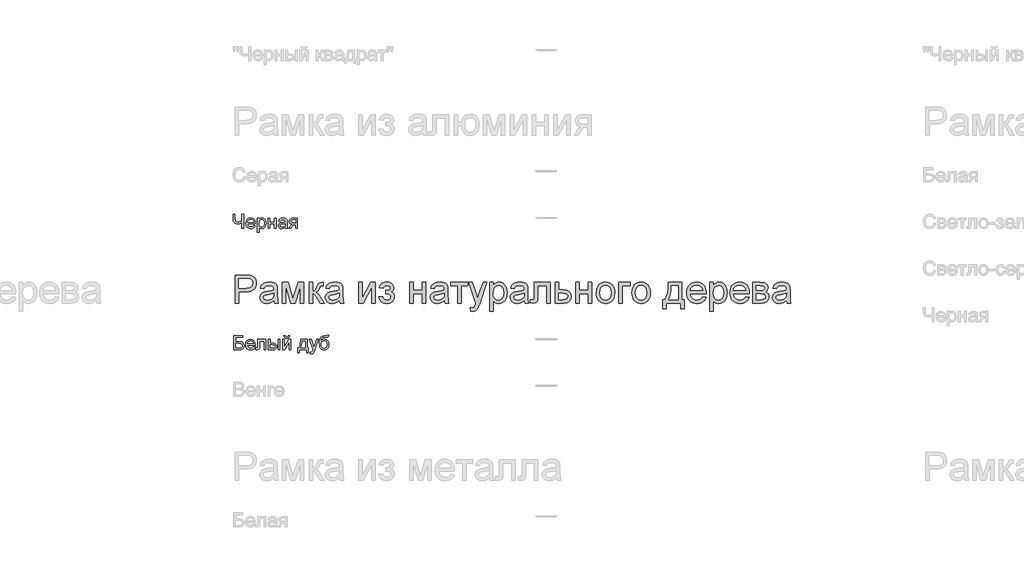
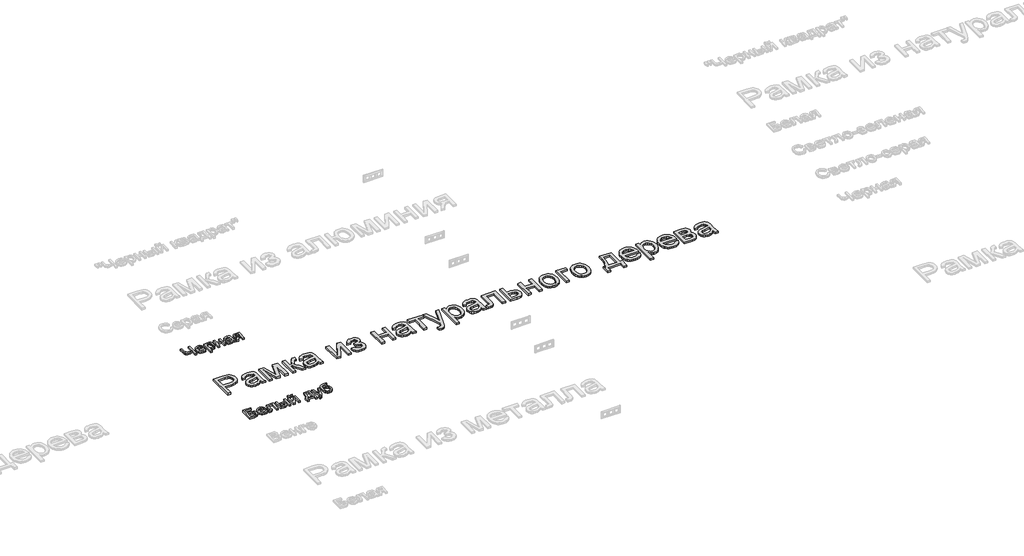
# One storey, part 123 of 168: 3 proxies.
"""IFC4 building model written with IfcOpenShell, lengths in millimetres."""

from ifc_helpers import new_model, si_unit, origin, origin_with_axes, place, context, project, spatial, polyline, outline, extrude, element, save

model = new_model("IFC4")

# Units and contexts
model_context = context("Model", 3, world=origin())
ifc_project = project(units=[si_unit("LENGTHUNIT", "METRE", prefix="MILLI")], contexts=[model_context])

# Site, building, storey
site = spatial("IfcSite", under=ifc_project)
building = spatial("IfcBuilding", under=site)
storey = spatial("IfcBuildingStorey", under=building, Name="Этаж 01", Elevation=0.0)

# Proxies
placement = place(None, origin())
element("IfcBuildingElementProxy", 1, Name="300 мм Arial 2", ObjectType="300 мм Arial 2", at=placement, inside=storey, context=model_context, shape_type="SweptSolid", body=[
    extrude(outline(polyline([(47699.0945017, -10648.4056816), (47699.0945017, -10347.0367511), (47810.7834754, -10347.0367511), (47855.8122316, -10349.9062307), (47875.8893915, -10355.2681108), (47892.4164901, -10363.9961111), (47905.7246213, -10376.4857048), (47916.1448788, -10393.1323651), (47922.8771193, -10412.7680666), (47925.1211995, -10434.224784), (47923.6059855, -10452.7246498), (47919.0603436, -10469.7437906), (47911.4842738, -10485.2822064), (47900.877776, -10499.3398971), (47886.3165468, -10510.9925593), (47866.8762826, -10519.3158895), (47842.5569835, -10524.3098875), (47813.3586494, -10525.9745536), (47736.765618, -10525.9745536), (47736.765618, -10648.4056816), (47699.0945017, -10648.4056816)]), holes=[polyline([(47736.765618, -10488.3034373), (47815.5659413, -10488.3034373), (47848.9696265, -10484.8453465), (47871.0425462, -10474.4710742), (47883.3481989, -10457.824414), (47887.4500832, -10435.5491592), (47885.0312591, -10418.6265874), (47877.7747867, -10404.352766), (47866.581977, -10393.6106117), (47852.3541408, -10387.2830414), (47814.6830245, -10384.7078674), (47736.765618, -10384.7078674), (47736.765618, -10488.3034373)])]), origin_with_axes(), (0.0, 0.0, 1.0), 20.0),
    extrude(outline(polyline([(48113.476781, -10620.1523443), (48095.4781544, -10635.584994), (48076.9460989, -10645.6833548), (48057.4575502, -10651.256767), (48036.589444, -10653.1145711), (48005.1079423, -10648.6448049), (47981.8853914, -10635.2355061), (47967.5655847, -10614.8732377), (47962.7923158, -10589.5445623), (47964.5949376, -10573.9279716), (47970.0028029, -10559.7461207), (47978.3445271, -10547.6060149), (47988.9487257, -10538.1146594), (48015.3258647, -10525.7538244), (48047.9202095, -10520.0884417), (48086.4374544, -10514.1287533), (48113.2560518, -10507.1389954), (48113.476781, -10498.7512859), (48110.883213, -10481.9390788), (48103.1025088, -10470.9394071), (48085.7016904, -10462.7724268), (48061.4582669, -10460.0501), (48039.0174652, -10461.8619189), (48023.3456922, -10467.2973753), (48012.6587202, -10477.3497509), (48005.1723216, -10493.0123268), (47967.5012053, -10488.3034373), (47974.0403078, -10467.7020455), (47983.7983777, -10451.5152378), (47997.685923, -10439.1360086), (48016.6134517, -10429.9573528), (48039.7624262, -10424.273576), (48066.3143092, -10422.3789837), (48091.7809404, -10424.0528468), (48111.9684648, -10429.074436), (48127.1895824, -10436.625214), (48137.7569927, -10445.8866432), (48144.7651447, -10457.3369703), (48149.3084874, -10471.4544419), (48151.1478973, -10504.4166687), (48151.1478973, -10551.2848348), (48153.0608837, -10616.7310418), (48160.5656764, -10648.4056816), (48122.8945601, -10648.4056816), (48113.476781, -10620.1523443)]), holes=[polyline([(48113.476781, -10544.8101117), (48052.7026754, -10556.3616064), (48020.2922716, -10562.4684475), (48005.61378, -10572.4012614), (48000.4634321, -10586.895812), (48003.2685323, -10598.0978187), (48011.683833, -10607.2764745), (48025.525393, -10613.4017097), (48044.6092715, -10615.4434548), (48064.8427813, -10613.1901776), (48082.7218462, -10606.4303459), (48097.2163968, -10596.4699409), (48107.2963635, -10584.6149436), (48111.7661297, -10572.4012614), (48113.2560518, -10555.4786896), (48113.476781, -10544.8101117)])]), origin_with_axes(), (0.0, 0.0, 1.0), 20.0),
    extrude(outline(polyline([(48202.9456823, -10427.0878733), (48267.7664898, -10427.0878733), (48317.7248647, -10604.2598421), (48371.5827888, -10427.0878733), (48433.6812696, -10427.0878733), (48433.6812696, -10648.4056816), (48396.0101533, -10648.4056816), (48396.0101533, -10470.2036431), (48341.8579236, -10648.4056816), (48292.4145835, -10648.4056816), (48240.6167986, -10461.6687808), (48240.6167986, -10648.4056816), (48202.9456823, -10648.4056816), (48202.9456823, -10427.0878733)])), origin_with_axes(), (0.0, 0.0, 1.0), 20.0),
    extrude(outline(polyline([(48490.1879441, -10427.0878733), (48527.8590604, -10427.0878733), (48527.8590604, -10521.265664), (48543.1813455, -10519.5734069), (48553.0957653, -10514.4966353), (48561.8697508, -10501.2528835), (48573.7707334, -10475.0596854), (48590.9508226, -10441.0306009), (48606.1075608, -10429.9573528), (48633.6619222, -10427.0878733), (48640.8724093, -10427.0878733), (48640.8724093, -10464.9797188), (48630.7188662, -10464.7589896), (48612.3247665, -10468.7321151), (48599.3753203, -10493.5273616), (48584.1817939, -10520.345959), (48562.8814263, -10533.4793463), (48574.8191971, -10538.7814455), (48586.6466032, -10548.1394438), (48609.9703217, -10579.0231373), (48650.2901884, -10648.4056816), (48607.4687241, -10648.4056816), (48567.9581979, -10580.4946653), (48548.0925701, -10551.7630814), (48538.8035497, -10546.5483542), (48527.8590604, -10544.8101117), (48527.8590604, -10648.4056816), (48490.1879441, -10648.4056816), (48490.1879441, -10427.0878733)])), origin_with_axes(), (0.0, 0.0, 1.0), 20.0),
    extrude(outline(polyline([(48815.1013222, -10620.1523443), (48797.1026956, -10635.584994), (48778.5706401, -10645.6833548), (48759.0820914, -10651.256767), (48738.2139852, -10653.1145711), (48706.7324835, -10648.6448049), (48683.5099326, -10635.2355061), (48669.1901259, -10614.8732377), (48664.416857, -10589.5445623), (48666.2194788, -10573.9279716), (48671.6273441, -10559.7461207), (48679.9690683, -10547.6060149), (48690.5732669, -10538.1146594), (48716.9504059, -10525.7538244), (48749.5447507, -10520.0884417), (48788.0619956, -10514.1287533), (48814.880593, -10507.1389954), (48815.1013222, -10498.7512859), (48812.5077542, -10481.9390788), (48804.72705, -10470.9394071), (48787.3262316, -10462.7724268), (48763.0828081, -10460.0501), (48740.6420064, -10461.8619189), (48724.9702334, -10467.2973753), (48714.2832614, -10477.3497509), (48706.7968628, -10493.0123268), (48669.1257465, -10488.3034373), (48675.664849, -10467.7020455), (48685.4229189, -10451.5152378), (48699.3104642, -10439.1360086), (48718.2379929, -10429.9573528), (48741.3869674, -10424.273576), (48767.9388504, -10422.3789837), (48793.4054816, -10424.0528468), (48813.593006, -10429.074436), (48828.8141236, -10436.625214), (48839.3815339, -10445.8866432), (48846.3896859, -10457.3369703), (48850.9330286, -10471.4544419), (48852.7724385, -10504.4166687), (48852.7724385, -10551.2848348), (48854.6854249, -10616.7310418), (48862.1902176, -10648.4056816), (48824.5191013, -10648.4056816), (48815.1013222, -10620.1523443)]), holes=[polyline([(48815.1013222, -10544.8101117), (48754.3272166, -10556.3616064), (48721.9168128, -10562.4684475), (48707.2383212, -10572.4012614), (48702.0879733, -10586.895812), (48704.8930735, -10598.0978187), (48713.3083742, -10607.2764745), (48727.1499342, -10613.4017097), (48746.2338127, -10615.4434548), (48766.4673225, -10613.1901776), (48784.3463874, -10606.4303459), (48798.840938, -10596.4699409), (48808.9209047, -10584.6149436), (48813.3906709, -10572.4012614), (48814.880593, -10555.4786896), (48815.1013222, -10544.8101117)])]), origin_with_axes(), (0.0, 0.0, 1.0), 20.0),
    extrude(outline(polyline([(49022.2924619, -10427.0878733), (49059.9635782, -10427.0878733), (49059.9635782, -10595.8721327), (49152.5226882, -10427.0878733), (49201.2302644, -10427.0878733), (49201.2302644, -10648.4056816), (49163.5591481, -10648.4056816), (49163.5591481, -10480.6514918), (49071.5886493, -10648.4056816), (49022.2924619, -10648.4056816), (49022.2924619, -10427.0878733)])), origin_with_axes(), (0.0, 0.0, 1.0), 20.0),
    extrude(outline(polyline([(49309.5347237, -10549.5190013), (49309.5347237, -10511.847885), (49339.259589, -10510.376357), (49354.2691744, -10502.5404705), (49359.5666751, -10495.1920276), (49361.3325087, -10486.1697217), (49358.9688668, -10475.4551586), (49351.8779414, -10467.1502225), (49341.0530137, -10461.8251307), (49327.4873651, -10460.0501), (49313.7745637, -10461.8159336), (49302.2874484, -10467.1134343), (49293.0260192, -10475.9426022), (49285.9902761, -10488.3034373), (49243.6102702, -10483.5945477), (49254.8490652, -10456.8127385), (49271.9371838, -10437.6828747), (49294.8746262, -10426.2049565), (49323.6613924, -10422.3789837), (49355.1520911, -10427.041888), (49378.9908444, -10441.0306009), (49394.0004298, -10461.4940369), (49399.003625, -10485.5811105), (49397.2239958, -10497.9419455), (49391.8851084, -10508.9784054), (49382.9869626, -10518.6904901), (49370.5295585, -10527.0781996), (49385.0700944, -10537.5444423), (49395.4351696, -10550.5490709), (49401.6431783, -10566.1288733), (49403.7125145, -10584.320638), (49398.460999, -10612.0497434), (49382.7064526, -10634.0214956), (49357.515733, -10648.3413022), (49323.955698, -10653.1145711), (49291.1314269, -10648.6999872), (49266.0142837, -10635.4562353), (49248.6042683, -10613.3833156), (49238.9013807, -10582.481228), (49281.2813865, -10577.7723385), (49287.6273509, -10593.7016289), (49298.2775347, -10605.5842173), (49311.9995331, -10612.9786454), (49327.5609415, -10615.4434548), (49342.7176797, -10613.079813), (49355.0785147, -10605.9888875), (49363.3006773, -10595.2191421), (49366.0413982, -10581.8190404), (49364.339944, -10571.2056449), (49359.2355813, -10562.0269891), (49344.7410307, -10551.4319876), (49316.8923636, -10549.2982721), (49309.5347237, -10549.5190013)])), origin_with_axes(), (0.0, 0.0, 1.0), 20.0),
    extrude(outline(polyline([(49568.5236483, -10427.0878733), (49606.1947647, -10427.0878733), (49606.1947647, -10511.847885), (49705.081445, -10511.847885), (49705.081445, -10427.0878733), (49742.7525613, -10427.0878733), (49742.7525613, -10648.4056816), (49705.081445, -10648.4056816), (49705.081445, -10549.5190013), (49606.1947647, -10549.5190013), (49606.1947647, -10648.4056816), (49568.5236483, -10648.4056816), (49568.5236483, -10427.0878733)])), origin_with_axes(), (0.0, 0.0, 1.0), 20.0),
    extrude(outline(polyline([(49940.5259219, -10620.1523443), (49922.5272953, -10635.584994), (49903.9952397, -10645.6833548), (49884.5066911, -10651.256767), (49863.6385849, -10653.1145711), (49832.1570831, -10648.6448049), (49808.9345322, -10635.2355061), (49794.6147255, -10614.8732377), (49789.8414566, -10589.5445623), (49791.6440784, -10573.9279716), (49797.0519438, -10559.7461207), (49805.393668, -10547.6060149), (49815.9978665, -10538.1146594), (49842.3750056, -10525.7538244), (49874.9693503, -10520.0884417), (49913.4865952, -10514.1287533), (49940.3051927, -10507.1389954), (49940.5259219, -10498.7512859), (49937.9323538, -10481.9390788), (49930.1516496, -10470.9394071), (49912.7508312, -10462.7724268), (49888.5074078, -10460.0501), (49866.066606, -10461.8619189), (49850.3948331, -10467.2973753), (49839.7078611, -10477.3497509), (49832.2214625, -10493.0123268), (49794.5503462, -10488.3034373), (49801.0894486, -10467.7020455), (49810.8475186, -10451.5152378), (49824.7350639, -10439.1360086), (49843.6625925, -10429.9573528), (49866.8115671, -10424.273576), (49893.3634501, -10422.3789837), (49918.8300812, -10424.0528468), (49939.0176057, -10429.074436), (49954.2387232, -10436.625214), (49964.8061336, -10445.8866432), (49971.8142856, -10457.3369703), (49976.3576282, -10471.4544419), (49978.1970382, -10504.4166687), (49978.1970382, -10551.2848348), (49980.1100246, -10616.7310418), (49987.6148173, -10648.4056816), (49949.9437009, -10648.4056816), (49940.5259219, -10620.1523443)]), holes=[polyline([(49940.5259219, -10544.8101117), (49879.7518163, -10556.3616064), (49847.3414125, -10562.4684475), (49832.6629209, -10572.4012614), (49827.512573, -10586.895812), (49830.3176732, -10598.0978187), (49838.7329738, -10607.2764745), (49852.5745339, -10613.4017097), (49871.6584124, -10615.4434548), (49891.8919221, -10613.1901776), (49909.7709871, -10606.4303459), (49924.2655377, -10596.4699409), (49934.3455044, -10584.6149436), (49938.8152706, -10572.4012614), (49940.3051927, -10555.4786896), (49940.5259219, -10544.8101117)])]), origin_with_axes(), (0.0, 0.0, 1.0), 20.0),
    extrude(outline(polyline([(50011.1592649, -10427.0878733), (50190.0970674, -10427.0878733), (50190.0970674, -10464.7589896), (50119.4637243, -10464.7589896), (50119.4637243, -10648.4056816), (50081.792608, -10648.4056816), (50081.792608, -10464.7589896), (50011.1592649, -10464.7589896), (50011.1592649, -10427.0878733)])), origin_with_axes(), (0.0, 0.0, 1.0), 20.0),
    extrude(outline(polyline([(50223.0592942, -10733.1656933), (50218.3504046, -10696.8925285), (50237.4802684, -10700.2034665), (50255.3593333, -10696.0463999), (50266.3222168, -10684.4581171), (50276.6229127, -10656.7198147), (50279.5659686, -10647.5963412), (50199.5148465, -10427.0878733), (50239.246102, -10427.0878733), (50281.6996842, -10549.9604597), (50296.4885404, -10599.1094942), (50311.2773966, -10555.6994188), (50354.9082012, -10427.0878733), (50394.3451511, -10427.0878733), (50317.3106613, -10653.7031823), (50297.2978808, -10702.8522169), (50287.0523672, -10718.5423839), (50275.4456903, -10729.4132969), (50261.9628152, -10735.7592613), (50246.0887071, -10737.8745828), (50223.0592942, -10733.1656933)])), origin_with_axes(), (0.0, 0.0, 1.0), 20.0),
    extrude(outline(polyline([(50425.5415443, -10733.1656933), (50425.5415443, -10427.0878733), (50463.2126606, -10427.0878733), (50463.2126606, -10464.0232256), (50475.4999193, -10445.8038698), (50489.2587059, -10432.7900442), (50505.2983609, -10424.9817488), (50524.4282246, -10422.3789837), (50549.9040528, -10426.0210155), (50572.1793076, -10436.9471107), (50590.31589, -10454.4950819), (50603.3757008, -10478.0027414), (50611.2667696, -10505.7594379), (50613.8971258, -10536.0545202), (50610.9264787, -10568.271786), (50602.0145374, -10597.0861432), (50587.4464104, -10621.0352611), (50567.5072063, -10638.6568087), (50544.2846553, -10649.5001305), (50519.8664879, -10653.1145711), (50502.548443, -10650.695747), (50487.0882021, -10643.4392746), (50473.8536473, -10632.4855882), (50463.2126606, -10618.975122), (50463.2126606, -10733.1656933), (50425.5415443, -10733.1656933)]), holes=[polyline([(50463.2126606, -10539.512611), (50467.2869537, -10573.2841782), (50479.509833, -10596.9022022), (50497.5452478, -10610.8081417), (50519.0571475, -10615.4434548), (50540.918535, -10610.6425948), (50559.4138024, -10596.2400147), (50572.0229577, -10571.7574679), (50576.2260095, -10536.7167078), (50572.1241253, -10503.1290817), (50559.8184726, -10479.1799638), (50541.8106489, -10464.832566), (50520.6022519, -10460.0501), (50499.3110814, -10465.1360686), (50480.613479, -10480.3939744), (50467.5628652, -10505.3455707), (50463.2126606, -10539.512611)])]), origin_with_axes(), (0.0, 0.0, 1.0), 20.0),
    extrude(outline(polyline([(50797.5438178, -10620.1523443), (50779.5451912, -10635.584994), (50761.0131357, -10645.6833548), (50741.524587, -10651.256767), (50720.6564808, -10653.1145711), (50689.1749791, -10648.6448049), (50665.9524282, -10635.2355061), (50651.6326215, -10614.8732377), (50646.8593526, -10589.5445623), (50648.6619744, -10573.9279716), (50654.0698397, -10559.7461207), (50662.411564, -10547.6060149), (50673.0157625, -10538.1146594), (50699.3929015, -10525.7538244), (50731.9872463, -10520.0884417), (50770.5044912, -10514.1287533), (50797.3230886, -10507.1389954), (50797.5438178, -10498.7512859), (50794.9502498, -10481.9390788), (50787.1695456, -10470.9394071), (50769.7687272, -10462.7724268), (50745.5253037, -10460.0501), (50723.084502, -10461.8619189), (50707.412729, -10467.2973753), (50696.7257571, -10477.3497509), (50689.2393585, -10493.0123268), (50651.5682421, -10488.3034373), (50658.1073446, -10467.7020455), (50667.8654145, -10451.5152378), (50681.7529599, -10439.1360086), (50700.6804885, -10429.9573528), (50723.8294631, -10424.273576), (50750.3813461, -10422.3789837), (50775.8479772, -10424.0528468), (50796.0355017, -10429.074436), (50811.2566192, -10436.625214), (50821.8240295, -10445.8866432), (50828.8321815, -10457.3369703), (50833.3755242, -10471.4544419), (50835.2149341, -10504.4166687), (50835.2149341, -10551.2848348), (50837.1279205, -10616.7310418), (50844.6327132, -10648.4056816), (50806.9615969, -10648.4056816), (50797.5438178, -10620.1523443)]), holes=[polyline([(50797.5438178, -10544.8101117), (50736.7697122, -10556.3616064), (50704.3593085, -10562.4684475), (50689.6808168, -10572.4012614), (50684.5304689, -10586.895812), (50687.3355691, -10598.0978187), (50695.7508698, -10607.2764745), (50709.5924298, -10613.4017097), (50728.6763083, -10615.4434548), (50748.9098181, -10613.1901776), (50766.788883, -10606.4303459), (50781.2834336, -10596.4699409), (50791.3634003, -10584.6149436), (50795.8331666, -10572.4012614), (50797.3230886, -10555.4786896), (50797.5438178, -10544.8101117)])]), origin_with_axes(), (0.0, 0.0, 1.0), 20.0),
    extrude(outline(polyline([(50905.8482772, -10427.0878733), (51075.3683006, -10427.0878733), (51075.3683006, -10648.1849524), (51037.6971843, -10648.1849524), (51037.6971843, -10464.7589896), (50943.5193935, -10464.7589896), (50943.5193935, -10570.3411222), (50940.9810078, -10619.0486984), (50936.226133, -10630.0759612), (50927.0382801, -10639.6133019), (50913.0955525, -10646.2075866), (50894.0760534, -10648.4056816), (50863.4682714, -10646.4926952), (50863.4682714, -10610.7345653), (50880.3172667, -10610.7345653), (50897.3502031, -10608.4169087), (50904.15602, -10601.0592688), (50905.8482772, -10568.2074066), (50905.8482772, -10427.0878733)])), origin_with_axes(), (0.0, 0.0, 1.0), 20.0),
    extrude(outline(polyline([(51131.8749751, -10427.0878733), (51169.5460914, -10427.0878733), (51169.5460914, -10507.1389954), (51212.9561668, -10507.1389954), (51250.5904949, -10511.857082), (51265.738036, -10517.7546902), (51278.4391619, -10526.0113418), (51288.4823404, -10536.3419281), (51295.6560393, -10548.4613405), (51301.3949984, -10578.0666441), (51296.5113649, -10605.0231973), (51281.8604645, -10627.7675016), (51270.6285673, -10636.7967054), (51256.4674098, -10643.2461366), (51219.3573135, -10648.4056816), (51131.8749751, -10648.4056816), (51131.8749751, -10427.0878733)]), holes=[polyline([(51169.5460914, -10610.7345653), (51204.7156101, -10610.7345653), (51232.0032571, -10608.7571995), (51250.1490365, -10602.8251024), (51260.3301707, -10592.6991504), (51263.7238821, -10578.1402205), (51261.2130875, -10565.8345678), (51253.6807037, -10554.9636548), (51237.5398811, -10547.3484975), (51209.2037704, -10544.8101117), (51169.5460914, -10544.8101117), (51169.5460914, -10610.7345653)])]), origin_with_axes(), (0.0, 0.0, 1.0), 20.0),
    extrude(outline(polyline([(51348.4838938, -10427.0878733), (51386.1550101, -10427.0878733), (51386.1550101, -10511.847885), (51485.0416904, -10511.847885), (51485.0416904, -10427.0878733), (51522.7128067, -10427.0878733), (51522.7128067, -10648.4056816), (51485.0416904, -10648.4056816), (51485.0416904, -10549.5190013), (51386.1550101, -10549.5190013), (51386.1550101, -10648.4056816), (51348.4838938, -10648.4056816), (51348.4838938, -10427.0878733)])), origin_with_axes(), (0.0, 0.0, 1.0), 20.0),
    extrude(outline(polyline([(51569.8017021, -10537.7467774), (51571.8388487, -10509.0841715), (51577.9502883, -10484.385494), (51588.136021, -10463.6507451), (51602.3960469, -10446.8799246), (51616.7526417, -10436.160763), (51632.5991587, -10428.504219), (51649.9355977, -10423.9102925), (51668.7619588, -10422.3789837), (51689.5449923, -10424.2436856), (51708.3368644, -10429.8377912), (51725.1375753, -10439.1613005), (51739.9471249, -10452.2142135), (51752.0343477, -10468.5550719), (51760.6680783, -10487.7424172), (51765.8483166, -10509.7762495), (51767.5750627, -10534.6565687), (51764.5216422, -10572.7139611), (51755.3613805, -10601.6846682), (51740.3609921, -10623.3805088), (51719.7871915, -10639.6133019), (51695.35063, -10649.7392538), (51668.7619588, -10653.1145711), (51647.6754227, -10651.256767), (51628.7088066, -10645.6833548), (51611.8621105, -10636.3943344), (51597.1353344, -10623.3897059), (51585.1768702, -10606.8901984), (51576.6351102, -10587.1165412), (51571.5100541, -10564.0687342), (51569.8017021, -10537.7467774)]), holes=[polyline([(51607.4728184, -10537.673201), (51611.8322201, -10571.7666649), (51624.910425, -10596.0560737), (51644.5921117, -10610.5966095), (51668.7619588, -10615.4434548), (51692.8214413, -10610.5690184), (51712.4663398, -10595.9457091), (51725.5445448, -10571.3344036), (51729.9039464, -10536.4959786), (51725.5169536, -10503.3957961), (51712.3559752, -10479.4374812), (51692.6834855, -10464.8969453), (51668.7619588, -10460.0501), (51644.5921117, -10464.8785512), (51624.910425, -10479.3639048), (51611.8322201, -10503.5981312), (51607.4728184, -10537.673201)])]), origin_with_axes(), (0.0, 0.0, 1.0), 20.0),
    extrude(outline(polyline([(51809.9550686, -10427.0878733), (51932.3861966, -10427.0878733), (51932.3861966, -10464.7589896), (51847.6261849, -10464.7589896), (51847.6261849, -10648.4056816), (51809.9550686, -10648.4056816), (51809.9550686, -10427.0878733)])), origin_with_axes(), (0.0, 0.0, 1.0), 20.0),
    extrude(outline(polyline([(51951.2217547, -10537.7467774), (51953.2589013, -10509.0841715), (51959.3703409, -10484.385494), (51969.5560736, -10463.6507451), (51983.8160995, -10446.8799246), (51998.1726943, -10436.160763), (52014.0192113, -10428.504219), (52031.3556503, -10423.9102925), (52050.1820114, -10422.3789837), (52070.9650449, -10424.2436856), (52089.756917, -10429.8377912), (52106.5576279, -10439.1613005), (52121.3671775, -10452.2142135), (52133.4544003, -10468.5550719), (52142.0881309, -10487.7424172), (52147.2683692, -10509.7762495), (52148.9951153, -10534.6565687), (52145.9416948, -10572.7139611), (52136.7814331, -10601.6846682), (52121.7810447, -10623.3805088), (52101.2072441, -10639.6133019), (52076.7706826, -10649.7392538), (52050.1820114, -10653.1145711), (52029.0954753, -10651.256767), (52010.1288592, -10645.6833548), (51993.2821631, -10636.3943344), (51978.555387, -10623.3897059), (51966.5969228, -10606.8901984), (51958.0551628, -10587.1165412), (51952.9301067, -10564.0687342), (51951.2217547, -10537.7467774)]), holes=[polyline([(51988.892871, -10537.673201), (51993.2522727, -10571.7666649), (52006.3304776, -10596.0560737), (52026.0121643, -10610.5966095), (52050.1820114, -10615.4434548), (52074.2414939, -10610.5690184), (52093.8863924, -10595.9457091), (52106.9645974, -10571.3344036), (52111.323999, -10536.4959786), (52106.9370062, -10503.3957961), (52093.7760278, -10479.4374812), (52074.1035381, -10464.8969453), (52050.1820114, -10460.0501), (52026.0121643, -10464.8785512), (52006.3304776, -10479.3639048), (51993.2522727, -10503.5981312), (51988.892871, -10537.673201)])]), origin_with_axes(), (0.0, 0.0, 1.0), 20.0),
    extrude(outline(polyline([(52342.0595864, -10427.0878733), (52483.3262725, -10427.0878733), (52483.3262725, -10610.7345653), (52511.5796098, -10610.7345653), (52511.5796098, -10709.6212456), (52473.9084935, -10709.6212456), (52473.9084935, -10648.4056816), (52318.5151387, -10648.4056816), (52318.5151387, -10709.6212456), (52280.8440224, -10709.6212456), (52280.8440224, -10610.7345653), (52304.3884701, -10610.7345653), (52321.5041799, -10579.8048865), (52333.4879359, -10538.8872116), (52340.3397381, -10487.9815405), (52342.0595864, -10427.0878733)]), holes=[polyline([(52375.0218132, -10464.7589896), (52371.9316044, -10510.8821947), (52366.1926453, -10550.5858591), (52357.8049358, -10583.8699826), (52346.7684759, -10610.7345653), (52445.6551562, -10610.7345653), (52445.6551562, -10464.7589896), (52375.0218132, -10464.7589896)])]), origin_with_axes(), (0.0, 0.0, 1.0), 20.0),
    extrude(outline(polyline([(52708.911512, -10582.481228), (52745.8468643, -10587.1901176), (52732.5387331, -10615.0203905), (52711.3027449, -10635.8241173), (52682.6171464, -10648.7919577), (52646.960184, -10653.1145711), (52623.5858817, -10651.2498692), (52602.7591623, -10645.6557637), (52584.4800256, -10636.3322543), (52568.7484718, -10623.2793413), (52556.0979297, -10606.860308), (52547.0618282, -10587.4384379), (52541.6401673, -10565.013731), (52539.832947, -10539.5861874), (52541.6585614, -10513.2964203), (52547.1354046, -10490.1244531), (52556.2634766, -10470.0702859), (52569.0427774, -10453.1339185), (52584.7329445, -10439.6786346), (52602.5936154, -10430.0677174), (52622.62479, -10424.3011672), (52644.8264684, -10422.3789837), (52666.3130762, -10424.2965686), (52685.7441433, -10430.0493233), (52703.1196698, -10439.6372478), (52718.4396557, -10453.0603421), (52730.9453442, -10469.9599213), (52739.8779789, -10489.9773003), (52745.2375597, -10513.1124793), (52747.0240867, -10539.3654582), (52746.8033575, -10549.5190013), (52577.5040633, -10549.5190013), (52584.0247717, -10577.7171562), (52599.1723128, -10598.4473066), (52621.0337004, -10611.1944178), (52647.695948, -10615.4434548), (52667.7455167, -10613.4752861), (52684.6313003, -10607.5707801), (52698.3532987, -10597.3620547), (52708.911512, -10582.481228)]), holes=[polyline([(52577.5040633, -10511.847885), (52709.3529704, -10511.847885), (52704.2578047, -10491.945469), (52694.2698086, -10477.7084358), (52672.3072535, -10464.464684), (52644.6793156, -10460.0501), (52619.2862609, -10463.5725701), (52598.289396, -10474.1399805), (52583.6936779, -10490.6118968), (52577.5040633, -10511.847885)])]), origin_with_axes(), (0.0, 0.0, 1.0), 20.0),
    extrude(outline(polyline([(52784.695203, -10733.1656933), (52784.695203, -10427.0878733), (52822.3663193, -10427.0878733), (52822.3663193, -10464.0232256), (52834.6535779, -10445.8038698), (52848.4123645, -10432.7900442), (52864.4520195, -10424.9817488), (52883.5818833, -10422.3789837), (52909.0577115, -10426.0210155), (52931.3329663, -10436.9471107), (52949.4695486, -10454.4950819), (52962.5293595, -10478.0027414), (52970.4204282, -10505.7594379), (52973.0507845, -10536.0545202), (52970.0801374, -10568.271786), (52961.1681961, -10597.0861432), (52946.6000691, -10621.0352611), (52926.6608649, -10638.6568087), (52903.438314, -10649.5001305), (52879.0201465, -10653.1145711), (52861.7021016, -10650.695747), (52846.2418608, -10643.4392746), (52833.007306, -10632.4855882), (52822.3663193, -10618.975122), (52822.3663193, -10733.1656933), (52784.695203, -10733.1656933)]), holes=[polyline([(52822.3663193, -10539.512611), (52826.4406124, -10573.2841782), (52838.6634917, -10596.9022022), (52856.6989065, -10610.8081417), (52878.2108062, -10615.4434548), (52900.0721937, -10610.6425948), (52918.567461, -10596.2400147), (52931.1766164, -10571.7574679), (52935.3796682, -10536.7167078), (52931.277784, -10503.1290817), (52918.9721312, -10479.1799638), (52900.9643076, -10464.832566), (52879.7559105, -10460.0501), (52858.4647401, -10465.1360686), (52839.7671377, -10480.3939744), (52826.7165239, -10505.3455707), (52822.3663193, -10539.512611)])]), origin_with_axes(), (0.0, 0.0, 1.0), 20.0),
    extrude(outline(polyline([(53170.3826867, -10582.481228), (53207.318039, -10587.1901176), (53194.0099079, -10615.0203905), (53172.7739197, -10635.8241173), (53144.0883211, -10648.7919577), (53108.4313587, -10653.1145711), (53085.0570565, -10651.2498692), (53064.230337, -10645.6557637), (53045.9512004, -10636.3322543), (53030.2196466, -10623.2793413), (53017.5691045, -10606.860308), (53008.5330029, -10587.4384379), (53003.111342, -10565.013731), (53001.3041217, -10539.5861874), (53003.1297361, -10513.2964203), (53008.6065793, -10490.1244531), (53017.7346514, -10470.0702859), (53030.5139522, -10453.1339185), (53046.2041193, -10439.6786346), (53064.0647901, -10430.0677174), (53084.0959648, -10424.3011672), (53106.2976432, -10422.3789837), (53127.7842509, -10424.2965686), (53147.2153181, -10430.0493233), (53164.5908446, -10439.6372478), (53179.9108304, -10453.0603421), (53192.416519, -10469.9599213), (53201.3491537, -10489.9773003), (53206.7087345, -10513.1124793), (53208.4952614, -10539.3654582), (53208.2745322, -10549.5190013), (53038.975238, -10549.5190013), (53045.4959464, -10577.7171562), (53060.6434876, -10598.4473066), (53082.5048751, -10611.1944178), (53109.1671227, -10615.4434548), (53129.2166915, -10613.4752861), (53146.102475, -10607.5707801), (53159.8244735, -10597.3620547), (53170.3826867, -10582.481228)]), holes=[polyline([(53038.975238, -10511.847885), (53170.8241451, -10511.847885), (53165.7289795, -10491.945469), (53155.7409833, -10477.7084358), (53133.7784282, -10464.464684), (53106.1504904, -10460.0501), (53080.7574357, -10463.5725701), (53059.7605708, -10474.1399805), (53045.1648526, -10490.6118968), (53038.975238, -10511.847885)])]), origin_with_axes(), (0.0, 0.0, 1.0), 20.0),
    extrude(outline(polyline([(53246.1663777, -10427.0878733), (53329.1605558, -10427.0878733), (53355.8411975, -10428.3478691), (53374.6675586, -10432.1278566), (53388.5183158, -10439.2647673), (53400.2721455, -10450.5955328), (53408.3011701, -10465.3567978), (53410.9775116, -10482.7852073), (53409.3588308, -10496.8291025), (53404.5027885, -10508.9416172), (53396.3909905, -10519.1779337), (53385.0050427, -10527.5932344), (53398.9477703, -10535.4199238), (53410.315324, -10548.0106851), (53417.875299, -10564.3722368), (53420.3952906, -10583.5112976), (53414.012538, -10612.2244873), (53398.8374057, -10632.439603), (53374.8147114, -10644.4141619), (53341.8892729, -10648.4056816), (53246.1663777, -10648.4056816), (53246.1663777, -10427.0878733)]), holes=[polyline([(53283.837494, -10511.847885), (53321.0671519, -10511.847885), (53351.7852985, -10509.9348986), (53366.7213076, -10502.2829531), (53371.6601233, -10495.9553828), (53373.3063953, -10488.4505901), (53370.4185216, -10477.2117951), (53361.7549006, -10469.9829139), (53346.1015217, -10466.0649707), (53322.2443743, -10464.7589896), (53283.837494, -10464.7589896), (53283.837494, -10511.847885)]), polyline([(53283.837494, -10610.7345653), (53330.0434726, -10610.7345653), (53355.2249952, -10609.033111), (53371.0255269, -10603.9287484), (53379.5052069, -10594.648925), (53382.7241743, -10580.4210889), (53381.1146906, -10570.9941127), (53376.2862394, -10562.2845065), (53368.8734172, -10555.4694925), (53359.5108204, -10551.7262932), (53326.3646527, -10549.5190013), (53283.837494, -10549.5190013), (53283.837494, -10610.7345653)])]), origin_with_axes(), (0.0, 0.0, 1.0), 20.0),
    extrude(outline(polyline([(53608.7508722, -10620.1523443), (53590.7522456, -10635.584994), (53572.2201901, -10645.6833548), (53552.7316414, -10651.256767), (53531.8635352, -10653.1145711), (53500.3820334, -10648.6448049), (53477.1594825, -10635.2355061), (53462.8396758, -10614.8732377), (53458.066407, -10589.5445623), (53459.8690287, -10573.9279716), (53465.2768941, -10559.7461207), (53473.6186183, -10547.6060149), (53484.2228168, -10538.1146594), (53510.5999559, -10525.7538244), (53543.1943006, -10520.0884417), (53581.7115455, -10514.1287533), (53608.530143, -10507.1389954), (53608.7508722, -10498.7512859), (53606.1573041, -10481.9390788), (53598.3765999, -10470.9394071), (53580.9757815, -10462.7724268), (53556.7323581, -10460.0501), (53534.2915564, -10461.8619189), (53518.6197834, -10467.2973753), (53507.9328114, -10477.3497509), (53500.4464128, -10493.0123268), (53462.7752965, -10488.3034373), (53469.314399, -10467.7020455), (53479.0724689, -10451.5152378), (53492.9600142, -10439.1360086), (53511.8875428, -10429.9573528), (53535.0365174, -10424.273576), (53561.5884004, -10422.3789837), (53587.0550315, -10424.0528468), (53607.242556, -10429.074436), (53622.4636735, -10436.625214), (53633.0310839, -10445.8866432), (53640.0392359, -10457.3369703), (53644.5825785, -10471.4544419), (53646.4219885, -10504.4166687), (53646.4219885, -10551.2848348), (53648.3349749, -10616.7310418), (53655.8397676, -10648.4056816), (53618.1686513, -10648.4056816), (53608.7508722, -10620.1523443)]), holes=[polyline([(53608.7508722, -10544.8101117), (53547.9767666, -10556.3616064), (53515.5663628, -10562.4684475), (53500.8878712, -10572.4012614), (53495.7375233, -10586.895812), (53498.5426235, -10598.0978187), (53506.9579241, -10607.2764745), (53520.7994842, -10613.4017097), (53539.8833627, -10615.4434548), (53560.1168724, -10613.1901776), (53577.9959374, -10606.4303459), (53592.490488, -10596.4699409), (53602.5704547, -10584.6149436), (53607.0402209, -10572.4012614), (53608.530143, -10555.4786896), (53608.7508722, -10544.8101117)])]), origin_with_axes(), (0.0, 0.0, 1.0), 20.0),
])
element("IfcBuildingElementProxy", 2, Name="150", ObjectType="150", at=placement, inside=storey, context=model_context, shape_type="SweptSolid", body=[
    extrude(outline(polyline([(47788.5634029, -9848.4056816), (47769.7278447, -9848.4056816), (47769.7278447, -9788.0730344), (47744.7486573, -9796.2400147), (47723.0804077, -9798.9623414), (47708.3973176, -9797.0999388), (47695.5444404, -9791.512731), (47685.5840354, -9783.0606422), (47679.5783618, -9772.6035965), (47675.550054, -9742.6028198), (47675.550054, -9697.7212163), (47694.3856121, -9697.7212163), (47694.3856121, -9740.064434), (47696.6480864, -9760.4313009), (47703.4355092, -9772.3828673), (47713.3959142, -9778.1908043), (47725.1773351, -9780.1267833), (47746.909964, -9777.7907326), (47769.7278447, -9770.7825806), (47769.7278447, -9697.7212163), (47788.5634029, -9697.7212163), (47788.5634029, -9848.4056816)])), origin_with_axes(), (0.0, 0.0, 1.0), 20.0),
    extrude(outline(polyline([(47896.6471331, -9815.4434548), (47915.1148092, -9817.7978996), (47908.4607436, -9831.713036), (47897.8427496, -9842.1148995), (47883.4999503, -9848.5988196), (47865.6714691, -9850.7601263), (47843.5709582, -9847.0307226), (47826.565613, -9835.8425114), (47815.7222912, -9817.9220597), (47812.1078506, -9793.9959345), (47815.7590794, -9769.2650674), (47826.7127658, -9750.7698), (47843.4881848, -9739.2366995), (47864.6046113, -9735.3923327), (47885.0634487, -9739.2275025), (47901.4112049, -9750.7330118), (47912.1303665, -9769.191491), (47915.7034204, -9793.8855699), (47915.5930558, -9798.9623414), (47830.9434087, -9798.9623414), (47834.2037629, -9813.0614189), (47841.7775335, -9823.4264941), (47852.7082273, -9829.8000497), (47866.0393511, -9831.9245682), (47884.5070272, -9827.9882308), (47896.6471331, -9815.4434548)]), holes=[polyline([(47830.9434087, -9780.1267833), (47896.8678623, -9780.1267833), (47894.3202794, -9770.1755753), (47889.3262814, -9763.0570587), (47878.3450038, -9756.4351828), (47864.5310349, -9754.2278908), (47851.8345075, -9755.9891259), (47841.3360751, -9761.272831), (47834.038216, -9769.5087892), (47830.9434087, -9780.1267833)])]), origin_with_axes(), (0.0, 0.0, 1.0), 20.0),
    extrude(outline(polyline([(47934.5389786, -9890.7856874), (47934.5389786, -9737.7467774), (47953.3745367, -9737.7467774), (47953.3745367, -9756.2144536), (47966.3975594, -9740.5978629), (47983.9823187, -9735.3923327), (47996.7202328, -9737.2133485), (48007.8578602, -9742.6763962), (48016.9261514, -9751.4503817), (48023.4560568, -9763.2042115), (48028.7167693, -9792.2301009), (48027.2314458, -9808.3387338), (48022.7754751, -9822.7459124), (48015.4914116, -9834.7204713), (48005.5218095, -9843.5312451), (47993.9105341, -9848.952906), (47981.7014504, -9850.7601263), (47965.3123075, -9845.9224781), (47953.3745367, -9833.6904018), (47953.3745367, -9890.7856874), (47934.5389786, -9890.7856874)]), holes=[polyline([(47953.3745367, -9793.9591463), (47955.4116833, -9810.8449299), (47961.5231229, -9822.6539419), (47970.5408303, -9829.6069116), (47981.2967802, -9831.9245682), (47992.2274739, -9829.5241382), (48001.4751076, -9822.3228481), (48007.7796853, -9810.0815747), (48009.8812112, -9792.5611947), (48007.8302691, -9775.7673816), (48001.6774427, -9763.7928227), (47992.6735309, -9756.6191238), (47982.0693323, -9754.2278908), (47971.4237471, -9756.7708751), (47962.0749459, -9764.399828), (47955.549639, -9776.8756261), (47953.3745367, -9793.9591463)])]), origin_with_axes(), (0.0, 0.0, 1.0), 20.0),
    extrude(outline(polyline([(48049.9067723, -9737.7467774), (48068.7423304, -9737.7467774), (48068.7423304, -9780.1267833), (48118.1856706, -9780.1267833), (48118.1856706, -9737.7467774), (48137.0212287, -9737.7467774), (48137.0212287, -9848.4056816), (48118.1856706, -9848.4056816), (48118.1856706, -9798.9623414), (48068.7423304, -9798.9623414), (48068.7423304, -9848.4056816), (48049.9067723, -9848.4056816), (48049.9067723, -9737.7467774)])), origin_with_axes(), (0.0, 0.0, 1.0), 20.0),
    extrude(outline(polyline([(48235.907909, -9834.279013), (48217.642568, -9847.0445182), (48197.4642405, -9850.7601263), (48181.7234897, -9848.5252432), (48170.1122142, -9841.8205939), (48162.9523109, -9831.6394596), (48160.5656764, -9818.975122), (48164.17092, -9804.0759012), (48173.6438813, -9793.2601705), (48186.8324509, -9787.079753), (48203.1296232, -9784.2470616), (48235.7975444, -9777.7723385), (48235.907909, -9773.5784838), (48234.611125, -9765.1723802), (48230.7207729, -9759.6725443), (48222.0203637, -9755.5890542), (48209.898652, -9754.2278908), (48190.8423646, -9757.8515285), (48181.7556793, -9770.7090042), (48162.9201212, -9768.3545594), (48171.0687074, -9749.9604597), (48187.4762444, -9739.1815172), (48212.3266731, -9735.3923327), (48235.1537509, -9738.7400588), (48248.0480149, -9747.1461624), (48253.8237622, -9759.9300617), (48254.7434672, -9776.4111751), (48254.7434672, -9799.8452582), (48255.6999604, -9832.5683617), (48259.4523567, -9848.4056816), (48240.6167986, -9848.4056816), (48235.907909, -9834.279013)]), holes=[polyline([(48235.907909, -9796.6078966), (48205.5208562, -9802.383644), (48189.3156543, -9805.4370645), (48181.9764085, -9810.4034715), (48179.4012346, -9817.6507468), (48185.011435, -9827.841078), (48201.4741543, -9831.9245682), (48220.5304416, -9827.4180137), (48232.8177003, -9816.5103126), (48235.7975444, -9801.9421856), (48235.907909, -9796.6078966)])]), origin_with_axes(), (0.0, 0.0, 1.0), 20.0),
    extrude(outline(polyline([(48365.4023713, -9737.7467774), (48365.4023713, -9848.4056816), (48346.5668132, -9848.4056816), (48346.5668132, -9806.0256757), (48336.3029055, -9806.0256757), (48322.3233897, -9808.4169087), (48309.1900025, -9824.4933519), (48294.1804171, -9848.4056816), (48272.4018029, -9848.4056816), (48291.3109375, -9818.1657816), (48299.6618588, -9807.3132627), (48307.3505925, -9802.4940086), (48294.4747227, -9798.5484742), (48285.4248256, -9791.0528785), (48280.0721425, -9781.0832765), (48278.2879149, -9769.7157228), (48280.7251331, -9756.8214589), (48288.0367877, -9746.6127335), (48299.9653614, -9739.9632664), (48316.2533368, -9737.7467774), (48365.4023713, -9737.7467774)]), holes=[polyline([(48346.5668132, -9756.5823356), (48321.7347785, -9756.5823356), (48308.9094924, -9757.672186), (48301.6300275, -9760.9417372), (48297.123473, -9771.1504626), (48298.7835405, -9778.32876), (48303.763743, -9783.3089625), (48327.2897966, -9787.1901176), (48346.5668132, -9787.1901176), (48346.5668132, -9756.5823356)])]), origin_with_axes(), (0.0, 0.0, 1.0), 20.0),
])
element("IfcBuildingElementProxy", 3, Name="150", ObjectType="150", at=placement, inside=storey, context=model_context, shape_type="SweptSolid", body=[
    extrude(outline(polyline([(47682.6133883, -10997.7212163), (47776.791179, -10997.7212163), (47776.791179, -11016.5567745), (47701.4489464, -11016.5567745), (47701.4489464, -11061.2912251), (47736.7288298, -11061.2912251), (47767.8148584, -11065.1171979), (47778.2167218, -11070.6446248), (47786.3193227, -11079.5749603), (47791.53405, -11091.0712726), (47793.2722924, -11104.2966303), (47788.3242796, -11125.7625448), (47773.5538175, -11142.0781113), (47760.2824745, -11146.823789), (47740.1133441, -11148.4056816), (47682.6133883, -11148.4056816), (47682.6133883, -10997.7212163)]), holes=[polyline([(47701.4489464, -11129.5701234), (47741.8056013, -11129.5701234), (47756.0702257, -11128.015822), (47766.269754, -11123.3529177), (47772.3949892, -11115.5814105), (47774.4367343, -11104.7013005), (47769.7646329, -11089.9492325), (47756.7600044, -11082.0765578), (47728.3779085, -11080.1267833), (47701.4489464, -11080.1267833), (47701.4489464, -11129.5701234)])]), origin_with_axes(), (0.0, 0.0, 1.0), 20.0),
    extrude(outline(polyline([(47894.2926883, -11115.4434548), (47912.7603645, -11117.7978996), (47906.1062989, -11131.713036), (47895.4883048, -11142.1148995), (47881.1455055, -11148.5988196), (47863.3170243, -11150.7601263), (47841.2165134, -11147.0307226), (47824.2111682, -11135.8425114), (47813.3678464, -11117.9220597), (47809.7534058, -11093.9959345), (47813.4046346, -11069.2650674), (47824.358321, -11050.7698), (47841.13374, -11039.2366995), (47862.2501665, -11035.3923327), (47882.709004, -11039.2275025), (47899.0567601, -11050.7330118), (47909.7759218, -11069.191491), (47913.3489756, -11093.8855699), (47913.2386111, -11098.9623414), (47828.588964, -11098.9623414), (47831.8493181, -11113.0614189), (47839.4230887, -11123.4264941), (47850.3537825, -11129.8000497), (47863.6849063, -11131.9245682), (47882.1525825, -11127.9882308), (47894.2926883, -11115.4434548)]), holes=[polyline([(47828.588964, -11080.1267833), (47894.5134175, -11080.1267833), (47891.9658347, -11070.1755753), (47886.9718366, -11063.0570587), (47875.990559, -11056.4351828), (47862.1765901, -11054.2278908), (47849.4800628, -11055.9891259), (47838.9816303, -11061.272831), (47831.6837712, -11069.5087892), (47828.588964, -11080.1267833)])]), origin_with_axes(), (0.0, 0.0, 1.0), 20.0),
    extrude(outline(polyline([(47941.6023129, -11037.7467774), (48026.3623246, -11037.7467774), (48026.3623246, -11148.295317), (48007.5267664, -11148.295317), (48007.5267664, -11056.5823356), (47960.437871, -11056.5823356), (47960.437871, -11109.3734019), (47959.1686781, -11133.72719), (47952.1973143, -11144.0094917), (47935.716201, -11148.4056816), (47920.41231, -11147.4491884), (47920.41231, -11129.5701234), (47928.8368076, -11129.5701234), (47937.3532758, -11128.4112951), (47940.7561843, -11124.7324752), (47941.6023129, -11108.3065441), (47941.6023129, -11037.7467774)])), origin_with_axes(), (0.0, 0.0, 1.0), 20.0),
    extrude(outline(polyline([(48158.2112316, -11037.7467774), (48177.0467898, -11037.7467774), (48177.0467898, -11148.4056816), (48158.2112316, -11148.4056816), (48158.2112316, -11037.7467774)])), origin_with_axes(), (0.0, 0.0, 1.0), 20.0),
    extrude(outline(polyline([(48054.6156618, -11037.7467774), (48073.4512199, -11037.7467774), (48073.4512199, -11077.7723385), (48096.7381502, -11077.7723385), (48116.8658939, -11080.1313818), (48131.7789103, -11087.2085117), (48141.0081498, -11098.433511), (48144.084563, -11113.2361628), (48141.5047905, -11126.7144394), (48133.7654731, -11138.0865916), (48120.3607729, -11145.8259091), (48100.7848522, -11148.4056816), (48054.6156618, -11148.4056816), (48054.6156618, -11037.7467774)]), holes=[polyline([(48073.4512199, -11129.5701234), (48092.8018129, -11129.5701234), (48117.7810004, -11125.615392), (48123.3820037, -11120.552416), (48125.2490049, -11113.272951), (48119.7123808, -11101.6846682), (48110.8326292, -11097.8770895), (48095.2666223, -11096.6078966), (48073.4512199, -11096.6078966), (48073.4512199, -11129.5701234)])]), origin_with_axes(), (0.0, 0.0, 1.0), 20.0),
    extrude(outline(polyline([(48205.300127, -11037.7467774), (48224.1356852, -11037.7467774), (48224.1356852, -11122.1389071), (48270.4152402, -11037.7467774), (48294.7690282, -11037.7467774), (48294.7690282, -11148.4056816), (48275.9334701, -11148.4056816), (48275.9334701, -11064.5285867), (48229.9482207, -11148.4056816), (48205.300127, -11148.4056816), (48205.300127, -11037.7467774)])), origin_with_axes(), (0.0, 0.0, 1.0), 20.0),
    extrude(outline(polyline([(48266.515691, -10997.7212163), (48280.6423596, -10997.7212163), (48277.6027346, -11009.7831473), (48271.5004921, -11018.672096), (48262.6115433, -11024.1489392), (48251.2118, -11025.9745536), (48238.8417679, -11024.1627347), (48229.2492449, -11018.7272783), (48222.6917483, -11009.8521251), (48219.4267956, -10997.7212163), (48233.5534643, -10997.7212163), (48238.850965, -11008.3346119), (48249.5195428, -11011.847885), (48261.2181903, -11008.4449765), (48266.515691, -10997.7212163)])), origin_with_axes(), (0.0, 0.0, 1.0), 20.0),
    extrude(outline(polyline([(48398.3645981, -11037.7467774), (48468.9979412, -11037.7467774), (48468.9979412, -11129.5701234), (48483.1246098, -11129.5701234), (48483.1246098, -11179.0134636), (48464.2890516, -11179.0134636), (48464.2890516, -11148.4056816), (48386.5923742, -11148.4056816), (48386.5923742, -11179.0134636), (48367.7568161, -11179.0134636), (48367.7568161, -11129.5701234), (48379.5290399, -11129.5701234), (48388.0868948, -11114.105284), (48394.0787728, -11093.6464466), (48398.3645981, -11037.7467774)]), holes=[polyline([(48414.8457115, -11056.5823356), (48410.4311275, -11099.4957703), (48400.7190429, -11129.5701234), (48450.162383, -11129.5701234), (48450.162383, -11056.5823356), (48414.8457115, -11056.5823356)])]), origin_with_axes(), (0.0, 0.0, 1.0), 20.0),
    extrude(outline(polyline([(48504.3146127, -11190.7856874), (48501.9601679, -11172.6491051), (48511.5250998, -11174.304574), (48520.4646323, -11172.2260408), (48525.946074, -11166.4318993), (48531.0964219, -11152.5627481), (48532.5679499, -11148.0010114), (48492.5423889, -11037.7467774), (48512.4080166, -11037.7467774), (48533.6348077, -11099.1830706), (48541.0292358, -11123.7575879), (48548.4236639, -11102.0525502), (48570.2390662, -11037.7467774), (48589.9575412, -11037.7467774), (48551.4402963, -11151.0544319), (48541.433906, -11175.6289492), (48530.5078108, -11188.9094892), (48515.8293191, -11193.1401322), (48504.3146127, -11190.7856874)])), origin_with_axes(), (0.0, 0.0, 1.0), 20.0),
    extrude(outline(polyline([(48683.2524152, -10995.3667716), (48699.7335285, -10995.3667716), (48694.8774862, -11010.0636573), (48685.2757661, -11015.3795521), (48662.209565, -11016.5567745), (48631.1419305, -11020.897782), (48624.0142169, -11026.5447707), (48619.2225539, -11034.8037215), (48615.194246, -11059.4150269), (48631.5098125, -11041.3888092), (48641.4288308, -11036.8914518), (48652.5342686, -11035.3923327), (48672.1331819, -11039.2045098), (48688.0348811, -11050.6410414), (48698.5747003, -11068.5798871), (48702.0879733, -11091.8990071), (48700.3451324, -11109.8792396), (48695.1166095, -11124.3094109), (48678.5803138, -11143.8623389), (48667.2863366, -11149.0356795), (48652.5342686, -11150.7601263), (48635.5335219, -11148.5390388), (48622.7910092, -11141.8757762), (48613.4146169, -11131.7498242), (48606.512231, -11119.1406689), (48602.2631939, -11100.1533594), (48600.8468482, -11070.8929452), (48604.4199021, -11034.7531377), (48615.1390637, -11012.7124076), (48633.2710476, -11001.4690142), (48659.0825681, -10997.7212163), (48680.0518418, -10997.2981521), (48683.2524152, -10995.3667716)]), holes=[polyline([(48683.2524152, -11091.3103959), (48681.2106701, -11076.48935), (48675.0854349, -11064.6205572), (48665.2445915, -11056.8260574), (48652.056022, -11054.2278908), (48638.3064324, -11056.9732102), (48628.1069041, -11065.2091684), (48621.7885308, -11078.0344544), (48619.6824064, -11094.5477575), (48622.00926, -11110.5552228), (48628.9898209, -11122.304454), (48639.3824872, -11129.5195396), (48651.9456574, -11131.9245682), (48664.5732068, -11129.1424606), (48674.5704001, -11120.7961378), (48681.0819114, -11107.8604872), (48683.2524152, -11091.3103959)])]), origin_with_axes(), (0.0, 0.0, 1.0), 20.0),
])

save(model, "model.ifc")
